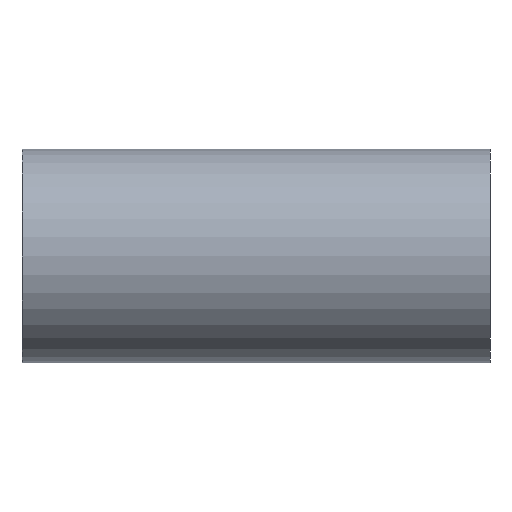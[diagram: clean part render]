
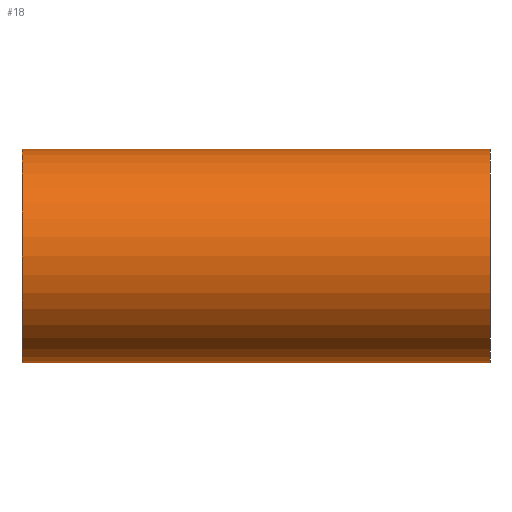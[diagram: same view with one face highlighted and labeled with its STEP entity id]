
A CAD part, front view. The second image highlights one B-rep face of the part: STEP entity #18.
In plain terms, the highlighted cylindrical face has radius 228.6 mm (diameter 457.2 mm), a partial arc.
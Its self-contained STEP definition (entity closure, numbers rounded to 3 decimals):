
#2 = VECTOR ( 'NONE', #20, 1000. ) ;
#12 = FACE_OUTER_BOUND ( 'NONE', #116, .T. ) ;
#14 = CARTESIAN_POINT ( 'NONE',  ( 1000., 0., 228.6 ) ) ;
#18 = ADVANCED_FACE ( 'NONE', ( #12 ), #53, .T. ) ;
#20 = DIRECTION ( 'NONE',  ( -1., 0., 0. ) ) ;
#26 = VERTEX_POINT ( 'NONE', #14 ) ;
#32 = AXIS2_PLACEMENT_3D ( 'NONE', #177, #86, #57 ) ;
#45 = VERTEX_POINT ( 'NONE', #99 ) ;
#46 = CIRCLE ( 'NONE', #156, 228.6 ) ;
#48 = DIRECTION ( 'NONE',  ( -1., 0., 0. ) ) ;
#50 = LINE ( 'NONE', #200, #2 ) ;
#51 = EDGE_CURVE ( 'NONE', #155, #72, #142, .T. ) ;
#53 = CYLINDRICAL_SURFACE ( 'NONE', #73, 228.6 ) ;
#57 = DIRECTION ( 'NONE',  ( 0., 0., -1. ) ) ;
#60 = VECTOR ( 'NONE', #48, 1000. ) ;
#64 = CARTESIAN_POINT ( 'NONE',  ( 0., 0., 228.6 ) ) ;
#71 = ORIENTED_EDGE ( 'NONE', *, *, #196, .F. ) ;
#72 = VERTEX_POINT ( 'NONE', #178 ) ;
#73 = AXIS2_PLACEMENT_3D ( 'NONE', #158, #195, #105 ) ;
#80 = DIRECTION ( 'NONE',  ( 0., 0., -1. ) ) ;
#86 = DIRECTION ( 'NONE',  ( 1., 0., 0. ) ) ;
#99 = CARTESIAN_POINT ( 'NONE',  ( 1000., 0., -228.6 ) ) ;
#105 = DIRECTION ( 'NONE',  ( 0., 0., 1. ) ) ;
#116 = EDGE_LOOP ( 'NONE', ( #71, #141, #140, #173 ) ) ;
#131 = DIRECTION ( 'NONE',  ( 1., 0., 0. ) ) ;
#134 = LINE ( 'NONE', #163, #60 ) ;
#140 = ORIENTED_EDGE ( 'NONE', *, *, #188, .T. ) ;
#141 = ORIENTED_EDGE ( 'NONE', *, *, #145, .F. ) ;
#142 = CIRCLE ( 'NONE', #32, 228.6 ) ;
#145 = EDGE_CURVE ( 'NONE', #26, #45, #46, .T. ) ;
#155 = VERTEX_POINT ( 'NONE', #64 ) ;
#156 = AXIS2_PLACEMENT_3D ( 'NONE', #168, #131, #80 ) ;
#158 = CARTESIAN_POINT ( 'NONE',  ( 1000., 0., 0. ) ) ;
#163 = CARTESIAN_POINT ( 'NONE',  ( 1000., 0., -228.6 ) ) ;
#168 = CARTESIAN_POINT ( 'NONE',  ( 1000., 0., 0. ) ) ;
#173 = ORIENTED_EDGE ( 'NONE', *, *, #51, .T. ) ;
#177 = CARTESIAN_POINT ( 'NONE',  ( 0., 0., 0. ) ) ;
#178 = CARTESIAN_POINT ( 'NONE',  ( 0., 0., -228.6 ) ) ;
#188 = EDGE_CURVE ( 'NONE', #26, #155, #50, .T. ) ;
#195 = DIRECTION ( 'NONE',  ( -1., 0., 0. ) ) ;
#196 = EDGE_CURVE ( 'NONE', #45, #72, #134, .T. ) ;
#200 = CARTESIAN_POINT ( 'NONE',  ( 1000., 0., 228.6 ) ) ;
